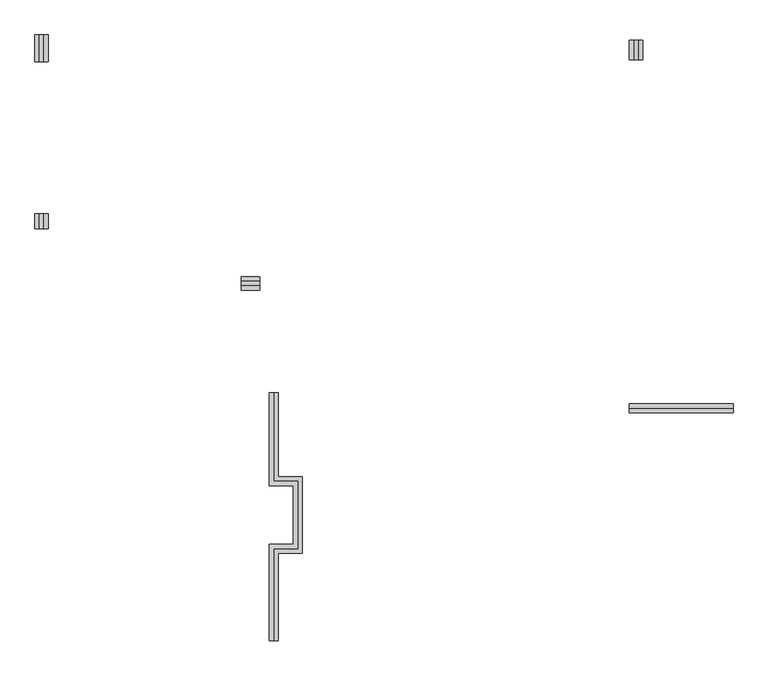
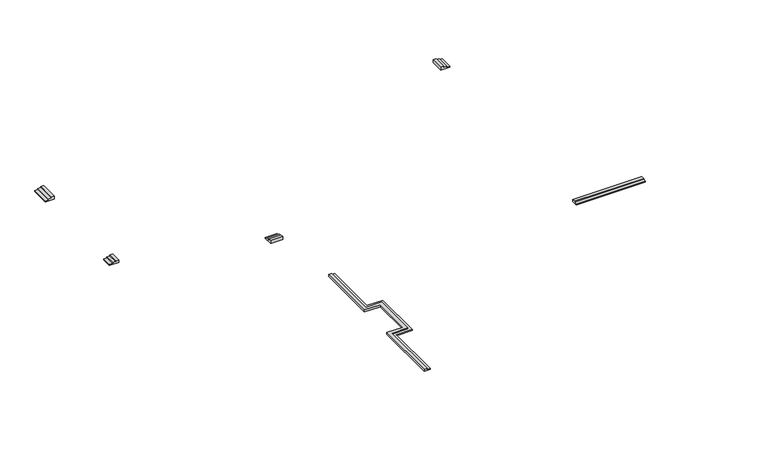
"""IFC4 building model written with IfcOpenShell, lengths in millimetres: proxy geometry, 常规模型 1 : 常规模型 1."""

from ifc_helpers import new_model, si_unit, frame, origin, place, context, project, spatial, polyline, outline, extrude, faceted_brep, source, transform, mapped, element, save


def generic_models_56ddb578(model_context):
    return source(origin(), model_context, "Body", "SolidModel", [
        extrude(outline(polyline([(-12360.7838385, -100.0), (-12060.7838385, -100.0), (-12060.7838385, -300.0), (-12660.7838385, -300.0), (-12660.7838385, -200.0), (-12360.7838385, -200.0), (-12360.7838385, -100.0)])), frame((6249.7168608, 0.0, 0.0), z_axis=(1.0, 0.0, 0.0), x_axis=(0.0, 1.0, 0.0)), (0.0, 0.0, 1.0), 6900.0),
        faceted_brep([(-17410.2831392, -27833.7838385, -100.0), (-17710.2831392, -27833.7838385, -100.0), (-17710.2831392, -27833.7838385, -300.0), (-17110.2831392, -27833.7838385, -300.0), (-17110.2831392, -27833.7838385, -200.0), (-17410.2831392, -27833.7838385, -200.0), (-17410.2831392, -21713.7838385, -100.0), (-15810.2831392, -21713.7838385, -100.0), (-15810.2831392, -17213.7838385, -100.0), (-17410.2831392, -17213.7838385, -100.0), (-17410.2831392, -11328.7838385, -100.0), (-17710.2831392, -11328.7838385, -100.0), (-17710.2831392, -17513.7838385, -100.0), (-16110.2831392, -17513.7838385, -100.0), (-16110.2831392, -21413.7838385, -100.0), (-17710.2831392, -21413.7838385, -100.0), (-17710.2831392, -21413.7838385, -300.0), (-16110.2831392, -21413.7838385, -300.0), (-16110.2831392, -17513.7838385, -300.0), (-17710.2831392, -17513.7838385, -300.0), (-17710.2831392, -11328.7838385, -300.0), (-17110.2831392, -11328.7838385, -300.0), (-17110.2831392, -16913.7838385, -300.0), (-15510.2831392, -16913.7838385, -300.0), (-15510.2831392, -22013.7838385, -300.0), (-17110.2831392, -22013.7838385, -300.0), (-17110.2831392, -22013.7838385, -200.0), (-15510.2831392, -22013.7838385, -200.0), (-15510.2831392, -16913.7838385, -200.0), (-17110.2831392, -16913.7838385, -200.0), (-17110.2831392, -11328.7838385, -200.0), (-17410.2831392, -11328.7838385, -200.0), (-17410.2831392, -17213.7838385, -200.0), (-15810.2831392, -17213.7838385, -200.0), (-15810.2831392, -21713.7838385, -200.0), (-17410.2831392, -21713.7838385, -200.0)], [[[0, 1, 2, 3, 4, 5]], [[1, 0, 6, 7, 8, 9, 10, 11, 12, 13, 14, 15]], [[2, 1, 15, 16]], [[3, 2, 16, 17, 18, 19, 20, 21, 22, 23, 24, 25]], [[4, 3, 25, 26]], [[5, 4, 26, 27, 28, 29, 30, 31, 32, 33, 34, 35]], [[0, 5, 35, 6]], [[16, 15, 14, 17]], [[26, 25, 24, 27]], [[6, 35, 34, 7]], [[17, 14, 13, 18]], [[27, 24, 23, 28]], [[7, 34, 33, 8]], [[18, 13, 12, 19]], [[28, 23, 22, 29]], [[8, 33, 32, 9]], [[10, 31, 30, 21, 20, 11]], [[19, 12, 11, 20]], [[29, 22, 21, 30]], [[9, 32, 31, 10]]]),
        extrude(outline(polyline([(-4193.7838385, 0.0), (-4193.7838385, -100.0), (-3893.7838385, -100.0), (-3893.7838385, -200.0), (-3593.7838385, -200.0), (-3593.7838385, -300.0), (-4493.7838385, -300.0), (-4493.7838385, 0.0), (-4193.7838385, 0.0)])), frame((-19550.2831392, 0.0, 0.0), z_axis=(1.0, 0.0, 0.0), x_axis=(0.0, 1.0, 0.0)), (0.0, 0.0, 1.0), 1200.0),
        extrude(outline(polyline([(0.0, 6549.7168608), (0.0, 6249.7168608), (-300.0, 6249.7168608), (-300.0, 7149.7168608), (-200.0, 7149.7168608), (-200.0, 6849.7168608), (-100.0, 6849.7168608), (-100.0, 6549.7168608), (0.0, 6549.7168608)])), frame((0.0, 10811.2161615, 0.0), z_axis=(0.0, 1.0, 0.0), x_axis=(0.0, 0.0, 1.0)), (0.0, 0.0, 1.0), 1300.0),
        extrude(outline(polyline([(0.0, -32690.2831392), (-100.0, -32690.2831392), (-100.0, -32990.2831392), (-200.0, -32990.2831392), (-200.0, -33290.2831392), (-300.0, -33290.2831392), (-300.0, -32390.2831392), (0.0, -32390.2831392), (0.0, -32690.2831392)])), frame((0.0, -423.7838385, 0.0), z_axis=(0.0, 1.0, 0.0), x_axis=(0.0, 0.0, 1.0)), (0.0, 0.0, 1.0), 1000.0),
        extrude(outline(polyline([(0.0, -32690.2831392), (-100.0, -32690.2831392), (-100.0, -32990.2831392), (-200.0, -32990.2831392), (-200.0, -33290.2831392), (-300.0, -33290.2831392), (-300.0, -32390.2831392), (0.0, -32390.2831392), (0.0, -32690.2831392)])), frame((0.0, 10676.2161615, 0.0), z_axis=(0.0, 1.0, 0.0), x_axis=(0.0, 0.0, 1.0)), (0.0, 0.0, 1.0), 1800.0),
    ])


if __name__ == "__main__":
    model = new_model("IFC4")
    model_context = context("Model", 3, world=origin())
    ifc_project = project(units=[si_unit("LENGTHUNIT", "METRE", prefix="MILLI")], contexts=[model_context])
    site = spatial("IfcSite", under=ifc_project)
    building = spatial("IfcBuilding", under=site)
    placement = place(None, origin())
    generic_models_shape = generic_models_56ddb578(model_context)
    element("IfcBuildingElementProxy", 1, Name="常规模型 1 : 常规模型 1", ObjectType="常规模型 1 : 常规模型 1", at=placement, inside=building, context=model_context, shape_type="MappedRepresentation", body=[
        mapped(generic_models_shape, transform((0.0, 0.0, 0.0), x_axis=(1.0, 0.0, 0.0), y_axis=(0.0, 1.0, 0.0), z_axis=(0.0, 0.0, 1.0))),
    ])
    save(model, "model.ifc")
